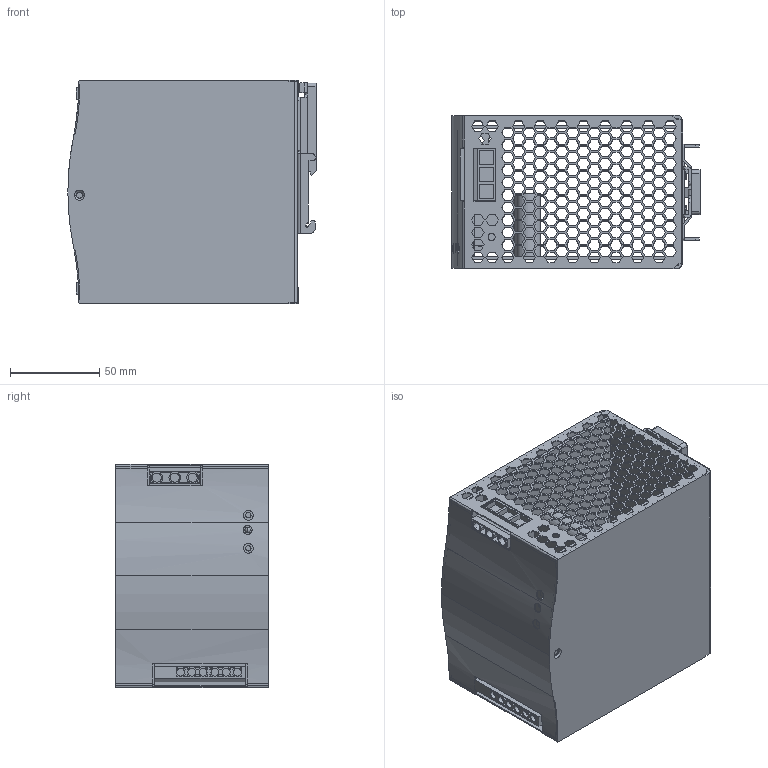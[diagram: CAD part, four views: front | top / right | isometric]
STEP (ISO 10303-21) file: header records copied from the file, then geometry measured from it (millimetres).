
FILE_DESCRIPTION(('OneSpaceDesigner STEP Export'),'2;1');
FILE_NAME('SDR-480.stp','2010-06-10T14:31:10',(''),(''),'OneSpace Designer STEP processor for AP214 (Solid Model)','OneSpace Designer 13.20 11-May-2005 (C) CoCreate Software GmbH','');
FILE_SCHEMA(('AUTOMOTIVE_DESIGN { 1 0 10303 214 1 1 1 1 }'));
Products named in the file (6): ¤W»\; ¤UªO; PCB1.1; ºÝ¤l; ºÝ¤l2; WDR-480
Assembly tree (5 placements, depth 2):
  WDR-480
    ºÝ¤l2
    ºÝ¤l
    PCB1.1
    ¤UªO
    ¤W»\
Bounding box: 139 x 85.5 x 125.2 mm (x, y, z)
Volume: 190363.1 mm3; surface area: 226471.9 mm2
Topology: 4 solids, 4 shells, 2986 faces, 8754 edges, 5807 vertices
Faces by surface type: plane 2720, cylinder 228, cone 28, bspline 8, torus 2
Entity records: 90552 total; most frequent: CARTESIAN_POINT 18413, ORIENTED_EDGE 17508, DIRECTION 11042, EDGE_CURVE 8754, VECTOR 7022, LINE 7022, VERTEX_POINT 5807, EDGE_LOOP 3843
